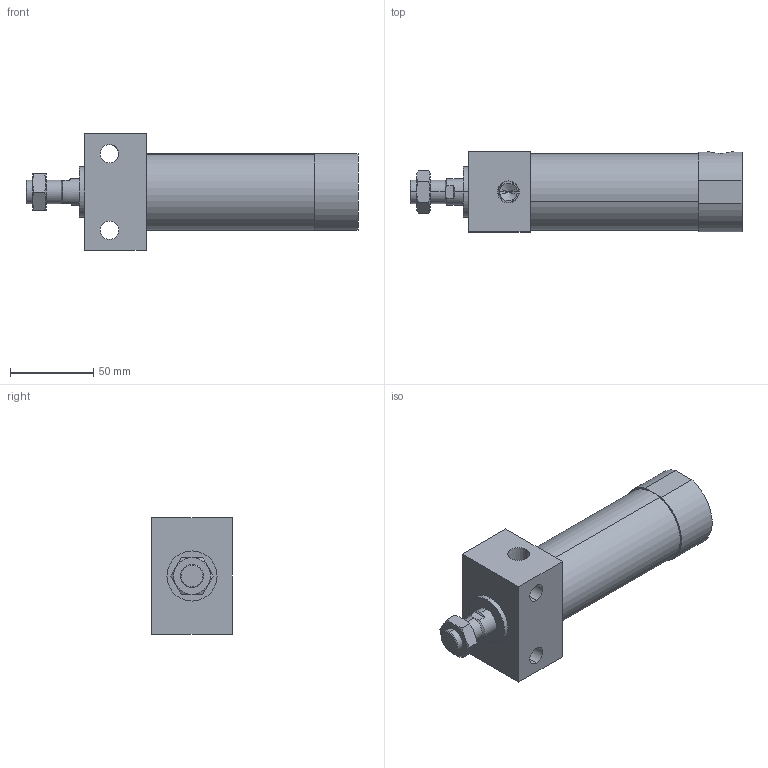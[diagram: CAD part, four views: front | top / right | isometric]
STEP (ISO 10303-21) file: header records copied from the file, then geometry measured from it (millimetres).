
FILE_DESCRIPTION (( 'STEP AP203' ), '1' );
FILE_NAME ('JGES2-40-50.STEP', '2016-04-20T07:07:14', ( '' ), ( '' ), 'SwSTEP 2.0', 'SolidWorks 2014', '' );
FILE_SCHEMA (( 'CONFIG_CONTROL_DESIGN' ));
Length unit declared in the file: millimetre
Products named in the file (5): JGES2-40B; M14x1.5-8mm; JGES2-40-50; 40-50; JGES2-40A
Assembly tree (4 placements, depth 2):
  JGES2-40-50
    JGES2-40B
    40-50
    JGES2-40A
    M14x1.5-8mm
Bounding box: 199 x 48 x 70 mm (x, y, z)
Volume: 329575.9 mm3; surface area: 49333.6 mm2
Topology: 4 solids, 4 shells, 85 faces, 192 edges, 117 vertices
Faces by surface type: plane 31, cylinder 26, cone 16, torus 12
Entity records: 3155 total; most frequent: CARTESIAN_POINT 755, DIRECTION 412, ORIENTED_EDGE 372, EDGE_CURVE 186, AXIS2_PLACEMENT_3D 170, VERTEX_POINT 117, EDGE_LOOP 101, FACE_OUTER_BOUND 85
